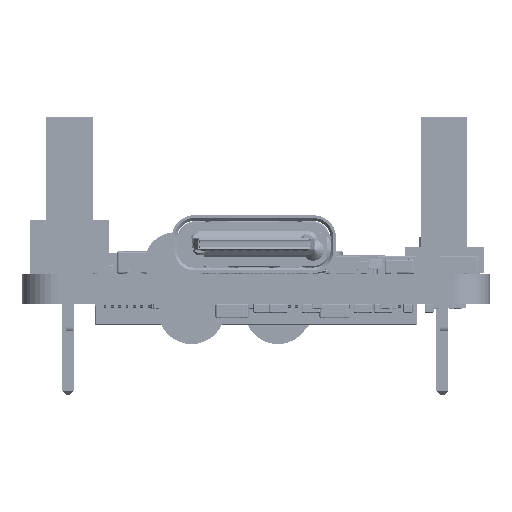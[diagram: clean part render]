
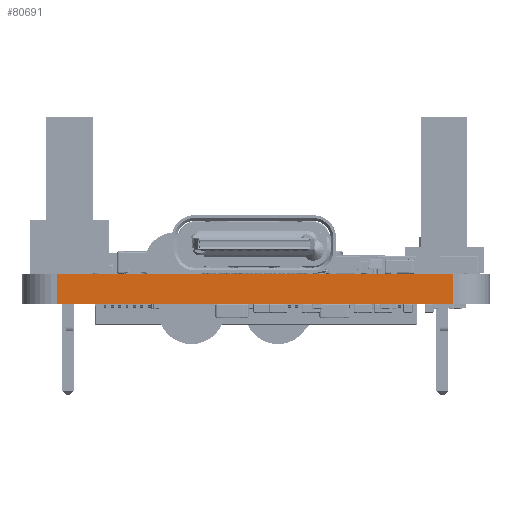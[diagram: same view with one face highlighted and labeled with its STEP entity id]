
A CAD part, left-side view. The second image highlights one B-rep face of the part: STEP entity #80691.
In plain terms, the highlighted planar face has unit normal (-1, 0, 0).
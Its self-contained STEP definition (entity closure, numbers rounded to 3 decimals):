
#80629 = EDGE_CURVE('',#80630,#80632,#80634,.T.);
#80630 = VERTEX_POINT('',#80631);
#80631 = CARTESIAN_POINT('',(0.,2.032,-1.601
    ));
#80632 = VERTEX_POINT('',#80633);
#80633 = CARTESIAN_POINT('',(0.,2.032,0.));
#80634 = LINE('',#80635,#80636);
#80635 = CARTESIAN_POINT('',(0.,2.032,-1.601
    ));
#80636 = VECTOR('',#80637,1.);
#80637 = DIRECTION('',(0.,0.,1.));
#80691 = ADVANCED_FACE('',(#80692),#80717,.F.);
#80692 = FACE_BOUND('',#80693,.F.);
#80693 = EDGE_LOOP('',(#80694,#80704,#80710,#80711));
#80694 = ORIENTED_EDGE('',*,*,#80695,.T.);
#80695 = EDGE_CURVE('',#80696,#80698,#80700,.T.);
#80696 = VERTEX_POINT('',#80697);
#80697 = CARTESIAN_POINT('',(0.,23.495,-1.601));
#80698 = VERTEX_POINT('',#80699);
#80699 = CARTESIAN_POINT('',(0.,23.495,0.));
#80700 = LINE('',#80701,#80702);
#80701 = CARTESIAN_POINT('',(0.,23.495,-1.601));
#80702 = VECTOR('',#80703,1.);
#80703 = DIRECTION('',(0.,0.,1.));
#80704 = ORIENTED_EDGE('',*,*,#80705,.T.);
#80705 = EDGE_CURVE('',#80698,#80632,#80706,.T.);
#80706 = LINE('',#80707,#80708);
#80707 = CARTESIAN_POINT('',(0.,23.495,0.));
#80708 = VECTOR('',#80709,1.);
#80709 = DIRECTION('',(0.,-1.,0.));
#80710 = ORIENTED_EDGE('',*,*,#80629,.F.);
#80711 = ORIENTED_EDGE('',*,*,#80712,.F.);
#80712 = EDGE_CURVE('',#80696,#80630,#80713,.T.);
#80713 = LINE('',#80714,#80715);
#80714 = CARTESIAN_POINT('',(0.,23.495,-1.601));
#80715 = VECTOR('',#80716,1.);
#80716 = DIRECTION('',(0.,-1.,0.));
#80717 = PLANE('',#80718);
#80718 = AXIS2_PLACEMENT_3D('',#80719,#80720,#80721);
#80719 = CARTESIAN_POINT('',(0.,23.495,-1.601));
#80720 = DIRECTION('',(1.,0.,-0.));
#80721 = DIRECTION('',(0.,-1.,0.));
